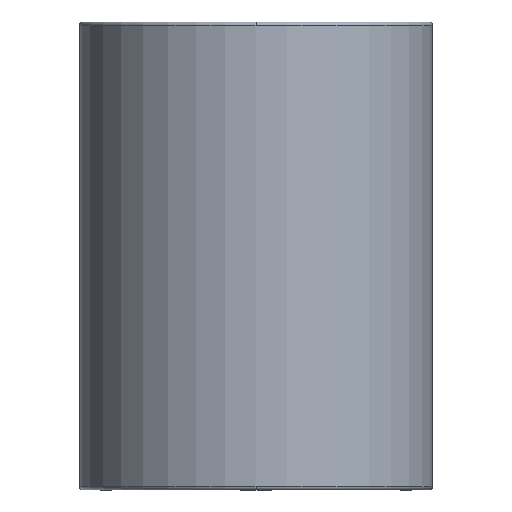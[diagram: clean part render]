
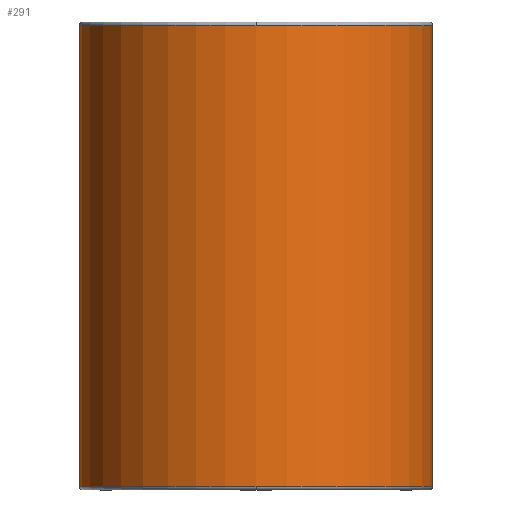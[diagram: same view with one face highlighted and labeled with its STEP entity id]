
A CAD part, front view. The second image highlights one B-rep face of the part: STEP entity #291.
In plain terms, the highlighted cylindrical face has radius 22.625 mm (diameter 45.25 mm), a partial arc.
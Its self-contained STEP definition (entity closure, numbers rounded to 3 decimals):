
#196=CARTESIAN_POINT('',(0.0,-22.625,36.1));
#197=VERTEX_POINT('',#196);
#223=CARTESIAN_POINT('',(-22.625,0.,36.1));
#224=VERTEX_POINT('',#223);
#232=CARTESIAN_POINT('',(0.0,0.,36.1));
#233=DIRECTION('',(0.0,0.0,1.0));
#234=DIRECTION('',(1.0,0.0,0.0));
#235=AXIS2_PLACEMENT_3D('',#232,#233,#234);
#236=CIRCLE('',#235,22.625);
#237=EDGE_CURVE('',#224,#197,#236,.T.);
#242=CARTESIAN_POINT('',(0.0,0.,6.5));
#243=DIRECTION('',(0.0,0.,1.0));
#244=DIRECTION('',(1.0,0.0,0.0));
#245=AXIS2_PLACEMENT_3D('',#242,#243,#244);
#246=CYLINDRICAL_SURFACE('',#245,22.625);
#247=CARTESIAN_POINT('',(22.625,0.,36.1));
#248=VERTEX_POINT('',#247);
#249=CARTESIAN_POINT('',(22.625,0.,-23.1));
#250=VERTEX_POINT('',#249);
#251=CARTESIAN_POINT('',(22.625,0.,36.1));
#252=DIRECTION('',(0.0,0.0,-1.0));
#253=VECTOR('',#252,59.2);
#254=LINE('',#251,#253);
#255=EDGE_CURVE('',#248,#250,#254,.T.);
#256=ORIENTED_EDGE('',*,*,#255,.F.);
#257=CARTESIAN_POINT('',(0.0,0.,36.1));
#258=DIRECTION('',(0.0,0.0,1.0));
#259=DIRECTION('',(1.0,0.0,0.0));
#260=AXIS2_PLACEMENT_3D('',#257,#258,#259);
#261=CIRCLE('',#260,22.625);
#262=EDGE_CURVE('',#197,#248,#261,.T.);
#263=ORIENTED_EDGE('',*,*,#262,.F.);
#264=ORIENTED_EDGE('',*,*,#237,.F.);
#265=CARTESIAN_POINT('',(-22.625,0.,-23.1));
#266=VERTEX_POINT('',#265);
#267=CARTESIAN_POINT('',(-22.625,0.,36.1));
#268=DIRECTION('',(0.0,0.0,-1.0));
#269=VECTOR('',#268,59.2);
#270=LINE('',#267,#269);
#271=EDGE_CURVE('',#224,#266,#270,.T.);
#272=ORIENTED_EDGE('',*,*,#271,.T.);
#273=CARTESIAN_POINT('',(0.0,-22.625,-23.1));
#274=VERTEX_POINT('',#273);
#275=CARTESIAN_POINT('',(0.0,0.,-23.1));
#276=DIRECTION('',(0.0,0.0,1.0));
#277=DIRECTION('',(1.0,0.0,0.0));
#278=AXIS2_PLACEMENT_3D('',#275,#276,#277);
#279=CIRCLE('',#278,22.625);
#280=EDGE_CURVE('',#266,#274,#279,.T.);
#281=ORIENTED_EDGE('',*,*,#280,.T.);
#282=CARTESIAN_POINT('',(0.0,0.,-23.1));
#283=DIRECTION('',(0.0,0.0,1.0));
#284=DIRECTION('',(1.0,0.0,0.0));
#285=AXIS2_PLACEMENT_3D('',#282,#283,#284);
#286=CIRCLE('',#285,22.625);
#287=EDGE_CURVE('',#274,#250,#286,.T.);
#288=ORIENTED_EDGE('',*,*,#287,.T.);
#289=EDGE_LOOP('',(#256,#263,#264,#272,#281,#288));
#290=FACE_OUTER_BOUND('',#289,.T.);
#291=ADVANCED_FACE('',(#290),#246,.T.);
